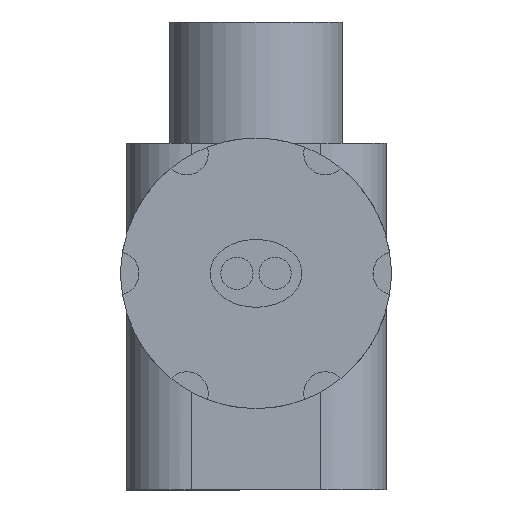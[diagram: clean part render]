
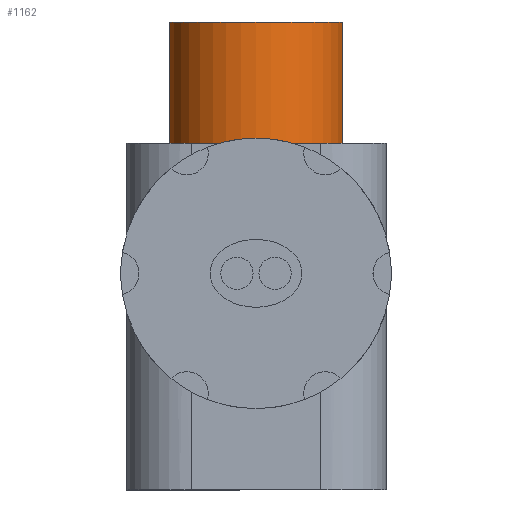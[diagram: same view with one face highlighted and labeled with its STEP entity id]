
A CAD part, left-side view. The second image highlights one B-rep face of the part: STEP entity #1162.
In plain terms, the highlighted cylindrical face has radius 6.363 mm (diameter 12.725 mm), a partial arc.
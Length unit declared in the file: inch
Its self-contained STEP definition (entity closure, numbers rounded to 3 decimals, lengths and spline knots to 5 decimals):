
#370 = VECTOR ( 'NONE', #834, 39.37008 ) ;
#375 = VECTOR ( 'NONE', #793, 39.37008 ) ;
#378 = LINE ( 'NONE', #794, #375 ) ;
#395 = LINE ( 'NONE', #835, #370 ) ;
#441 = CIRCLE ( 'NONE', #578, 0.2505 ) ;
#525 = EDGE_CURVE ( 'NONE', #1544, #1545, #2165, .T. ) ;
#578 = AXIS2_PLACEMENT_3D ( 'NONE', #927, #925, #924 ) ;
#631 = AXIS2_PLACEMENT_3D ( 'NONE', #1069, #1077, #1118 ) ;
#635 = EDGE_CURVE ( 'NONE', #1574, #1562, #441, .T. ) ;
#683 = EDGE_CURVE ( 'NONE', #1574, #1545, #395, .T. ) ;
#687 = AXIS2_PLACEMENT_3D ( 'NONE', #1431, #1430, #1420 ) ;
#718 = EDGE_CURVE ( 'NONE', #1562, #1544, #378, .T. ) ;
#793 = DIRECTION ( 'NONE',  ( 0., 0., -1. ) ) ;
#794 = CARTESIAN_POINT ( 'NONE',  ( 1.724, 0.2505, -0.80385 ) ) ;
#834 = DIRECTION ( 'NONE',  ( 0., 0., -1. ) ) ;
#835 = CARTESIAN_POINT ( 'NONE',  ( 1.724, -0.2505, -0.80385 ) ) ;
#924 = DIRECTION ( 'NONE',  ( 0., 1., 0. ) ) ;
#925 = DIRECTION ( 'NONE',  ( 0., 0., -1. ) ) ;
#927 = CARTESIAN_POINT ( 'NONE',  ( 1.724, 0., 0.725 ) ) ;
#1069 = CARTESIAN_POINT ( 'NONE',  ( 1.724, 0., 0.375 ) ) ;
#1077 = DIRECTION ( 'NONE',  ( 0., 0., 1. ) ) ;
#1118 = DIRECTION ( 'NONE',  ( 0., -1., 0. ) ) ;
#1162 = ADVANCED_FACE ( 'NONE', ( #1665 ), #1473, .T. ) ;
#1420 = DIRECTION ( 'NONE',  ( 0., 1., 0. ) ) ;
#1430 = DIRECTION ( 'NONE',  ( 0., 0., -1. ) ) ;
#1431 = CARTESIAN_POINT ( 'NONE',  ( 1.724, 0., -0.80385 ) ) ;
#1473 = CYLINDRICAL_SURFACE ( 'NONE', #687, 0.2505 ) ;
#1544 = VERTEX_POINT ( 'NONE', #2570 ) ;
#1545 = VERTEX_POINT ( 'NONE', #2575 ) ;
#1562 = VERTEX_POINT ( 'NONE', #2588 ) ;
#1574 = VERTEX_POINT ( 'NONE', #2594 ) ;
#1665 = FACE_OUTER_BOUND ( 'NONE', #2691, .T. ) ;
#2165 = CIRCLE ( 'NONE', #631, 0.2505 ) ;
#2570 = CARTESIAN_POINT ( 'NONE',  ( 1.724, 0.2505, 0.375 ) ) ;
#2575 = CARTESIAN_POINT ( 'NONE',  ( 1.724, -0.2505, 0.375 ) ) ;
#2588 = CARTESIAN_POINT ( 'NONE',  ( 1.724, 0.2505, 0.725 ) ) ;
#2594 = CARTESIAN_POINT ( 'NONE',  ( 1.724, -0.2505, 0.725 ) ) ;
#2691 = EDGE_LOOP ( 'NONE', ( #2775, #2779, #2776, #2771 ) ) ;
#2771 = ORIENTED_EDGE ( 'NONE', *, *, #525, .T. ) ;
#2775 = ORIENTED_EDGE ( 'NONE', *, *, #683, .F. ) ;
#2776 = ORIENTED_EDGE ( 'NONE', *, *, #718, .T. ) ;
#2779 = ORIENTED_EDGE ( 'NONE', *, *, #635, .T. ) ;
